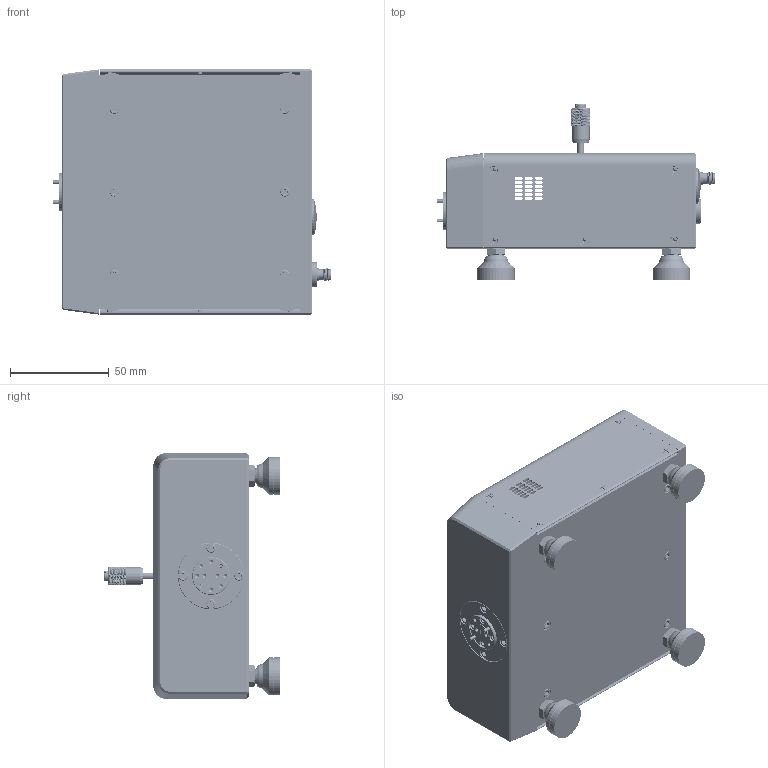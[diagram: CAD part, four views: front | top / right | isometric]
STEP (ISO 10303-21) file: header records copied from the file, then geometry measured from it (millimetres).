
FILE_DESCRIPTION (( 'STEP AP214' ), '1' );
FILE_NAME ('TE-W-A-2.STEP', '2025-01-09T23:00:57', ( '' ), ( '' ), 'SwSTEP 2.0', 'SolidWorks 2021', '' );
FILE_SCHEMA (( 'AUTOMOTIVE_DESIGN' ));
Length unit declared in the file: inch
Products named in the file (1): TE-W-A-2
Bounding box: 141.1 x 89.15 x 124.32 mm (x, y, z)
Volume: 265835.6 mm3; surface area: 146241.9 mm2
Topology: 50 solids, 50 shells, 6054 faces, 14006 edges, 8048 vertices
Faces by surface type: bspline 2676, cylinder 1783, plane 1009, cone 537, torus 28, sphere 21
Entity records: 737871 total; most frequent: CARTESIAN_POINT 555013, ORIENTED_EDGE 27620, DIRECTION 14662, EDGE_CURVE 13810, VERTEX_POINT 8023, EDGE_LOOP 6403, DIMENSIONAL_EXPONENTS 6105, UNCERTAINTY_MEASURE_WITH_UNIT 6105
